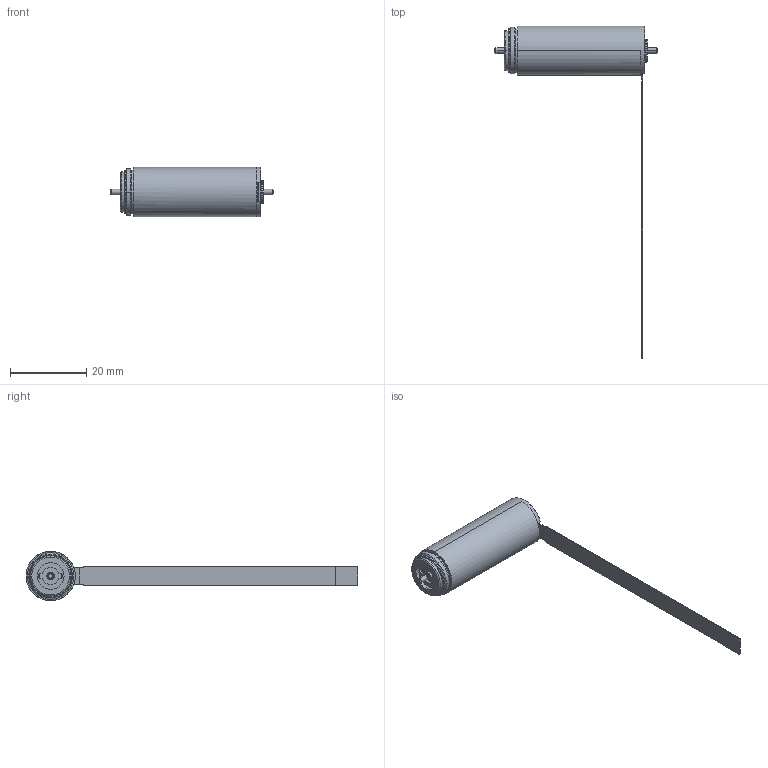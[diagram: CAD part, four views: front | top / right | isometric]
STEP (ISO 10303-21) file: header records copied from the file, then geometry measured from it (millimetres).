
FILE_DESCRIPTION((''),'2;1');
FILE_NAME('426576_EC13_12W_B','2016-10-17T',('mmagpetk'),(''),'CREO PARAMETRIC BY PTC INC, 2016050','CREO PARAMETRIC BY PTC INC, 2016050','');
FILE_SCHEMA(('CONFIG_CONTROL_DESIGN'));
Length unit declared in the file: millimetre
Products named in the file (1): 426576_EC13_12W_B
Bounding box: 42.7 x 86.91 x 12.9 mm (x, y, z)
Volume: 4718.4 mm3; surface area: 2810.3 mm2
Topology: 1 solids, 2 shells, 200 faces, 473 edges, 286 vertices
Faces by surface type: plane 79, cylinder 68, cone 27, torus 26
Entity records: 7510 total; most frequent: CARTESIAN_POINT 1383, DIRECTION 988, ORIENTED_EDGE 946, PRESENTATION_STYLE_ASSIGNMENT 474, STYLED_ITEM 474, CURVE_STYLE 473, EDGE_CURVE 473, AXIS2_PLACEMENT_3D 401
